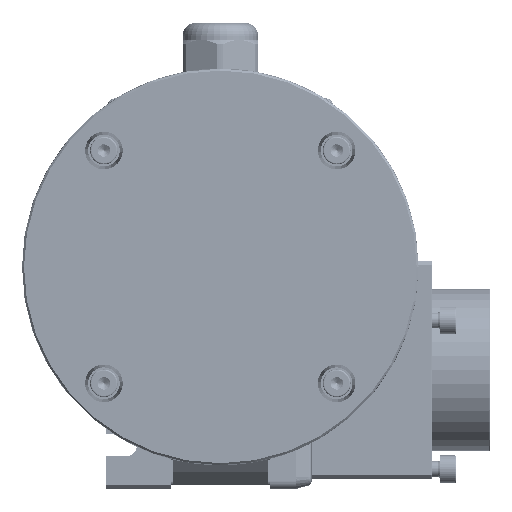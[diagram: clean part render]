
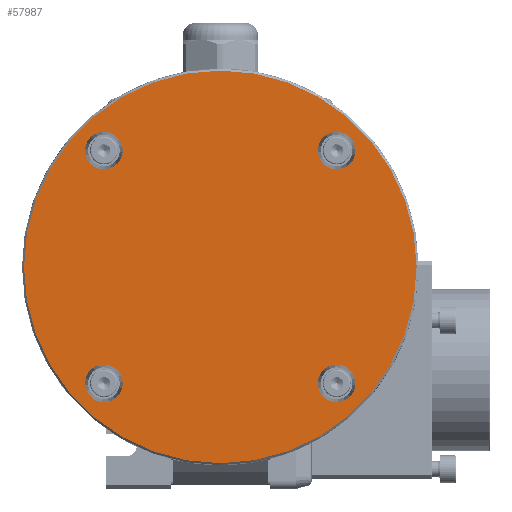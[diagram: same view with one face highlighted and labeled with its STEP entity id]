
A CAD part, left-side view. The second image highlights one B-rep face of the part: STEP entity #57987.
In plain terms, the highlighted planar face has unit normal (-1, 0, 0).
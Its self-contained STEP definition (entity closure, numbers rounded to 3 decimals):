
#13148=PLANE('',#63129);
#15890=FACE_BOUND('',#21962,.T.);
#15891=FACE_BOUND('',#21963,.T.);
#15892=FACE_BOUND('',#21964,.T.);
#15893=FACE_BOUND('',#21965,.T.);
#18150=FACE_OUTER_BOUND('',#21961,.T.);
#21961=EDGE_LOOP('',(#49370));
#21962=EDGE_LOOP('',(#49371));
#21963=EDGE_LOOP('',(#49372));
#21964=EDGE_LOOP('',(#49373));
#21965=EDGE_LOOP('',(#49374));
#24994=CIRCLE('',#63015,4.75);
#24997=CIRCLE('',#63021,4.75);
#25000=CIRCLE('',#63027,4.75);
#25003=CIRCLE('',#63033,4.75);
#25031=CIRCLE('',#63128,49.5);
#28895=VERTEX_POINT('',#94356);
#28898=VERTEX_POINT('',#94365);
#28901=VERTEX_POINT('',#94374);
#28904=VERTEX_POINT('',#94383);
#28975=VERTEX_POINT('',#94945);
#36043=EDGE_CURVE('',#28895,#28895,#24994,.T.);
#36046=EDGE_CURVE('',#28898,#28898,#24997,.T.);
#36049=EDGE_CURVE('',#28901,#28901,#25000,.T.);
#36052=EDGE_CURVE('',#28904,#28904,#25003,.T.);
#36168=EDGE_CURVE('',#28975,#28975,#25031,.T.);
#49370=ORIENTED_EDGE('',*,*,#36168,.F.);
#49371=ORIENTED_EDGE('',*,*,#36043,.T.);
#49372=ORIENTED_EDGE('',*,*,#36046,.T.);
#49373=ORIENTED_EDGE('',*,*,#36049,.T.);
#49374=ORIENTED_EDGE('',*,*,#36052,.T.);
#57987=ADVANCED_FACE('',(#18150,#15890,#15891,#15892,#15893),#13148,.F.);
#63015=AXIS2_PLACEMENT_3D('',#94357,#75432,#75433);
#63021=AXIS2_PLACEMENT_3D('',#94366,#75444,#75445);
#63027=AXIS2_PLACEMENT_3D('',#94375,#75456,#75457);
#63033=AXIS2_PLACEMENT_3D('',#94384,#75468,#75469);
#63128=AXIS2_PLACEMENT_3D('',#94946,#75718,#75719);
#63129=AXIS2_PLACEMENT_3D('',#94947,#75720,#75721);
#75432=DIRECTION('center_axis',(1.,0.,0.));
#75433=DIRECTION('ref_axis',(0.,0.707,0.707));
#75444=DIRECTION('center_axis',(1.,0.,0.));
#75445=DIRECTION('ref_axis',(0.,0.707,-0.707));
#75456=DIRECTION('center_axis',(1.,0.,0.));
#75457=DIRECTION('ref_axis',(0.,-0.707,-0.707));
#75468=DIRECTION('center_axis',(1.,0.,0.));
#75469=DIRECTION('ref_axis',(0.,-0.707,0.707));
#75718=DIRECTION('center_axis',(1.,0.,0.));
#75719=DIRECTION('ref_axis',(0.,0.,
-1.));
#75720=DIRECTION('center_axis',(1.,0.,0.));
#75721=DIRECTION('ref_axis',(0.,0.,-1.));
#94356=CARTESIAN_POINT('',(-59.,32.704,32.704));
#94357=CARTESIAN_POINT('Origin',(-59.,29.345,29.345));
#94365=CARTESIAN_POINT('',(-59.,32.704,-32.704));
#94366=CARTESIAN_POINT('Origin',(-59.,29.345,-29.345));
#94374=CARTESIAN_POINT('',(-59.,-32.704,-32.704));
#94375=CARTESIAN_POINT('Origin',(-59.,-29.345,-29.345));
#94383=CARTESIAN_POINT('',(-59.,-32.704,32.704));
#94384=CARTESIAN_POINT('Origin',(-59.,-29.345,29.345));
#94945=CARTESIAN_POINT('',(-59.,0.,49.5));
#94946=CARTESIAN_POINT('Origin',(-59.,0.,0.));
#94947=CARTESIAN_POINT('Origin',(-59.,0.,0.));
